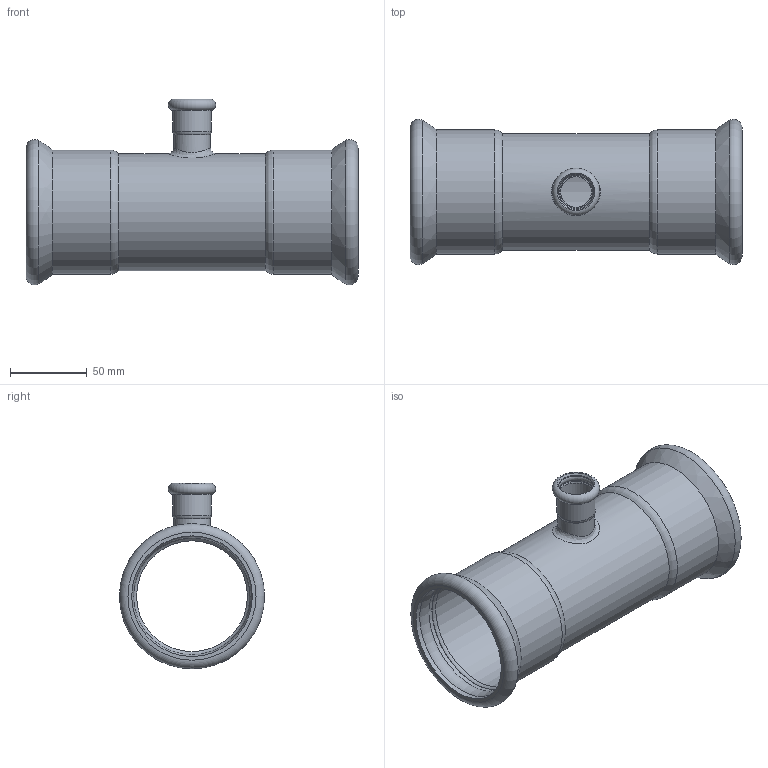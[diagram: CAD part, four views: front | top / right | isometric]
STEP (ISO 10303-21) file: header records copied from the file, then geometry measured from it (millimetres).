
FILE_DESCRIPTION(/* description */ ('TEE RIDOTTO 76,1-22-76,1'),/* implementation_level */ '2;1');
FILE_NAME(/* name */ 'T:\A_ARTICOLI\ARTICOLI PRODOTTI_WEB\Articoli_STEELPRES_WEB\Temporary Step\392076022_Steelpres.ipt.step',/* time_stamp */ '2016-01-19T16:42:59+01:00',/* author */ ('Ghirlinghelli Diego'),/* organization */ (''),/* preprocessor_version */ 'ST-DEVELOPER v15.2',/* originating_system */ 'Autodesk Inventor 2014',/* authorisation */ 'R.M. S.p.A. si riserva a termini di legge la proprietà del presente disegno con divieto di riprodurlo o comunicarlo a terzi senza sua autorizzazione scritta');
FILE_SCHEMA (('AUTOMOTIVE_DESIGN { 1 0 10303 214 3 1 1 }'));
Length unit declared in the file: millimetre
Products named in the file (1): 392076022_Steelpres
Bounding box: 216 x 94.49 x 120.8 mm (x, y, z)
Volume: 149178.9 mm3; surface area: 115073.5 mm2
Topology: 1 solids, 1 shells, 42 faces, 98 edges, 59 vertices
Faces by surface type: cylinder 17, torus 15, bspline 4, cone 3, plane 3
Full cylindrical faces by diameter (mm): 20 x1, 21 x1, 22.3 x1, 22.9 x2, 24 x1, 25.3 x1, 72.1 x1, 76.1 x1, 76.7 x2, 78.5 x4, 80.7 x2
Entity records: 1270 total; most frequent: CARTESIAN_POINT 495, DIRECTION 168, ORIENTED_EDGE 102, AXIS2_PLACEMENT_3D 84, EDGE_LOOP 82, EDGE_CURVE 51, VERTEX_POINT 47, CIRCLE 45
